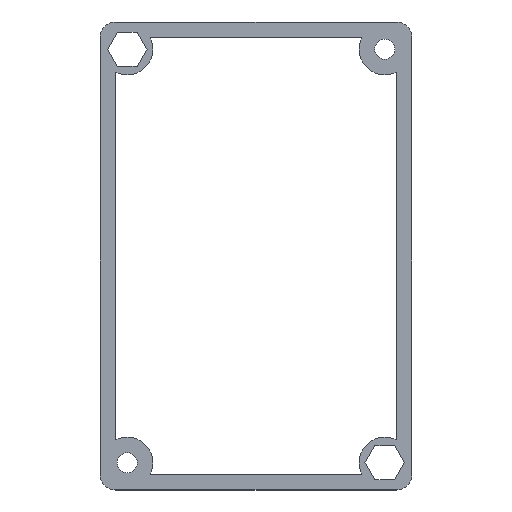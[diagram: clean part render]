
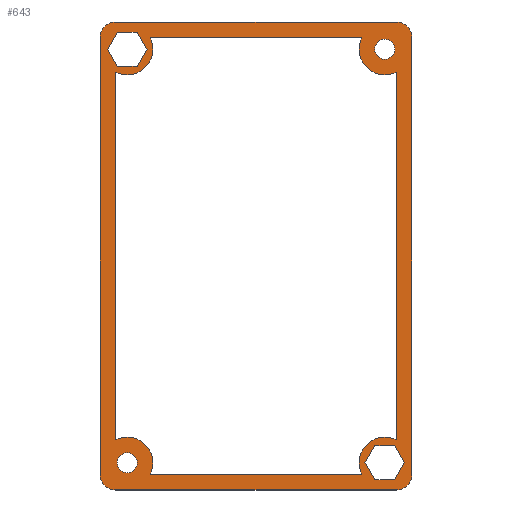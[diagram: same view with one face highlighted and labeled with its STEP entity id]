
A CAD part, top view. The second image highlights one B-rep face of the part: STEP entity #643.
In plain terms, the highlighted planar face has unit normal (0, 0, 1).
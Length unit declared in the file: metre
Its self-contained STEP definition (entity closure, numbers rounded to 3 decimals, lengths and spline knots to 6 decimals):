
#33=PLANE('',#708);
#36=LINE('',#894,#104);
#40=LINE('',#906,#108);
#44=LINE('',#918,#112);
#50=LINE('',#939,#118);
#54=LINE('',#951,#122);
#58=LINE('',#963,#126);
#62=LINE('',#975,#130);
#66=LINE('',#984,#134);
#69=LINE('',#990,#137);
#72=LINE('',#996,#140);
#75=LINE('',#1002,#143);
#78=LINE('',#1008,#146);
#82=LINE('',#1017,#150);
#85=LINE('',#1023,#153);
#88=LINE('',#1029,#156);
#91=LINE('',#1035,#159);
#94=LINE('',#1041,#162);
#96=LINE('',#1054,#164);
#98=LINE('',#1057,#166);
#100=LINE('',#1060,#168);
#104=VECTOR('',#721,1.);
#108=VECTOR('',#733,1.);
#112=VECTOR('',#745,1.);
#118=VECTOR('',#765,1.);
#122=VECTOR('',#777,1.);
#126=VECTOR('',#789,1.);
#130=VECTOR('',#801,1.);
#134=VECTOR('',#807,1.);
#137=VECTOR('',#812,1.);
#140=VECTOR('',#817,1.);
#143=VECTOR('',#822,1.);
#146=VECTOR('',#827,1.);
#150=VECTOR('',#833,1.);
#153=VECTOR('',#838,1.);
#156=VECTOR('',#843,1.);
#159=VECTOR('',#848,1.);
#162=VECTOR('',#853,1.);
#164=VECTOR('',#869,1.);
#166=VECTOR('',#873,1.);
#168=VECTOR('',#877,1.);
#316=ORIENTED_EDGE('',*,*,#406,.T.);
#317=ORIENTED_EDGE('',*,*,#430,.T.);
#318=ORIENTED_EDGE('',*,*,#419,.T.);
#319=ORIENTED_EDGE('',*,*,#416,.T.);
#320=ORIENTED_EDGE('',*,*,#413,.T.);
#321=ORIENTED_EDGE('',*,*,#410,.T.);
#322=ORIENTED_EDGE('',*,*,#390,.T.);
#323=ORIENTED_EDGE('',*,*,#428,.T.);
#324=ORIENTED_EDGE('',*,*,#403,.T.);
#325=ORIENTED_EDGE('',*,*,#400,.T.);
#326=ORIENTED_EDGE('',*,*,#397,.T.);
#327=ORIENTED_EDGE('',*,*,#394,.T.);
#328=ORIENTED_EDGE('',*,*,#427,.T.);
#329=ORIENTED_EDGE('',*,*,#425,.T.);
#330=ORIENTED_EDGE('',*,*,#368,.T.);
#331=ORIENTED_EDGE('',*,*,#422,.T.);
#332=ORIENTED_EDGE('',*,*,#387,.T.);
#333=ORIENTED_EDGE('',*,*,#384,.T.);
#334=ORIENTED_EDGE('',*,*,#381,.T.);
#335=ORIENTED_EDGE('',*,*,#378,.T.);
#336=ORIENTED_EDGE('',*,*,#375,.T.);
#337=ORIENTED_EDGE('',*,*,#372,.T.);
#338=ORIENTED_EDGE('',*,*,#346,.F.);
#339=ORIENTED_EDGE('',*,*,#432,.F.);
#340=ORIENTED_EDGE('',*,*,#365,.F.);
#341=ORIENTED_EDGE('',*,*,#362,.F.);
#342=ORIENTED_EDGE('',*,*,#359,.F.);
#343=ORIENTED_EDGE('',*,*,#356,.T.);
#344=ORIENTED_EDGE('',*,*,#353,.F.);
#345=ORIENTED_EDGE('',*,*,#350,.T.);
#346=EDGE_CURVE('',#434,#435,#494,.F.);
#350=EDGE_CURVE('',#438,#435,#36,.F.);
#353=EDGE_CURVE('',#438,#440,#496,.T.);
#356=EDGE_CURVE('',#442,#440,#40,.F.);
#359=EDGE_CURVE('',#442,#444,#498,.F.);
#362=EDGE_CURVE('',#444,#446,#44,.T.);
#365=EDGE_CURVE('',#446,#448,#500,.F.);
#368=EDGE_CURVE('',#450,#451,#502,.F.);
#372=EDGE_CURVE('',#454,#450,#50,.T.);
#375=EDGE_CURVE('',#456,#454,#504,.F.);
#378=EDGE_CURVE('',#458,#456,#54,.T.);
#381=EDGE_CURVE('',#460,#458,#506,.F.);
#384=EDGE_CURVE('',#462,#460,#58,.F.);
#387=EDGE_CURVE('',#464,#462,#508,.F.);
#390=EDGE_CURVE('',#466,#467,#62,.T.);
#394=EDGE_CURVE('',#470,#466,#66,.T.);
#397=EDGE_CURVE('',#472,#470,#69,.T.);
#400=EDGE_CURVE('',#474,#472,#72,.T.);
#403=EDGE_CURVE('',#476,#474,#75,.T.);
#406=EDGE_CURVE('',#478,#479,#78,.T.);
#410=EDGE_CURVE('',#482,#478,#82,.T.);
#413=EDGE_CURVE('',#484,#482,#85,.T.);
#416=EDGE_CURVE('',#486,#484,#88,.T.);
#419=EDGE_CURVE('',#488,#486,#91,.T.);
#422=EDGE_CURVE('',#451,#464,#94,.F.);
#425=EDGE_CURVE('',#491,#491,#511,.T.);
#427=EDGE_CURVE('',#493,#493,#513,.T.);
#428=EDGE_CURVE('',#467,#476,#96,.T.);
#430=EDGE_CURVE('',#479,#488,#98,.T.);
#432=EDGE_CURVE('',#448,#434,#100,.T.);
#434=VERTEX_POINT('',#886);
#435=VERTEX_POINT('',#887);
#438=VERTEX_POINT('',#895);
#440=VERTEX_POINT('',#901);
#442=VERTEX_POINT('',#907);
#444=VERTEX_POINT('',#913);
#446=VERTEX_POINT('',#919);
#448=VERTEX_POINT('',#925);
#450=VERTEX_POINT('',#931);
#451=VERTEX_POINT('',#932);
#454=VERTEX_POINT('',#940);
#456=VERTEX_POINT('',#946);
#458=VERTEX_POINT('',#952);
#460=VERTEX_POINT('',#958);
#462=VERTEX_POINT('',#964);
#464=VERTEX_POINT('',#970);
#466=VERTEX_POINT('',#976);
#467=VERTEX_POINT('',#977);
#470=VERTEX_POINT('',#985);
#472=VERTEX_POINT('',#991);
#474=VERTEX_POINT('',#997);
#476=VERTEX_POINT('',#1003);
#478=VERTEX_POINT('',#1009);
#479=VERTEX_POINT('',#1010);
#482=VERTEX_POINT('',#1018);
#484=VERTEX_POINT('',#1024);
#486=VERTEX_POINT('',#1030);
#488=VERTEX_POINT('',#1036);
#491=VERTEX_POINT('',#1047);
#493=VERTEX_POINT('',#1052);
#494=CIRCLE('',#658,0.008344);
#496=CIRCLE('',#662,0.008344);
#498=CIRCLE('',#666,0.008344);
#500=CIRCLE('',#670,0.008344);
#502=CIRCLE('',#673,0.00508);
#504=CIRCLE('',#677,0.00508);
#506=CIRCLE('',#681,0.00508);
#508=CIRCLE('',#685,0.00508);
#511=CIRCLE('',#700,0.003264);
#513=CIRCLE('',#703,0.003264);
#552=EDGE_LOOP('',(#316,#317,#318,#319,#320,#321));
#553=EDGE_LOOP('',(#322,#323,#324,#325,#326,#327));
#554=EDGE_LOOP('',(#328));
#555=EDGE_LOOP('',(#329));
#556=EDGE_LOOP('',(#330,#331,#332,#333,#334,#335,#336,#337));
#557=EDGE_LOOP('',(#338,#339,#340,#341,#342,#343,#344,#345));
#596=FACE_BOUND('',#552,.T.);
#597=FACE_BOUND('',#553,.T.);
#598=FACE_BOUND('',#554,.T.);
#599=FACE_BOUND('',#555,.T.);
#600=FACE_BOUND('',#556,.T.);
#601=FACE_BOUND('',#557,.T.);
#643=ADVANCED_FACE('',(#596,#597,#598,#599,#600,#601),#33,.F.);
#658=AXIS2_PLACEMENT_3D('',#885,#713,#714);
#662=AXIS2_PLACEMENT_3D('',#900,#726,#727);
#666=AXIS2_PLACEMENT_3D('',#912,#738,#739);
#670=AXIS2_PLACEMENT_3D('',#924,#750,#751);
#673=AXIS2_PLACEMENT_3D('',#930,#757,#758);
#677=AXIS2_PLACEMENT_3D('',#945,#770,#771);
#681=AXIS2_PLACEMENT_3D('',#957,#782,#783);
#685=AXIS2_PLACEMENT_3D('',#969,#794,#795);
#700=AXIS2_PLACEMENT_3D('',#1046,#859,#860);
#703=AXIS2_PLACEMENT_3D('',#1051,#865,#866);
#708=AXIS2_PLACEMENT_3D('',#1063,#881,#882);
#713=DIRECTION('',(0.,0.,1.));
#714=DIRECTION('',(1.,0.,0.));
#721=DIRECTION('',(0.,-1.,0.));
#726=DIRECTION('',(0.,0.,-1.));
#727=DIRECTION('',(-1.,0.,0.));
#733=DIRECTION('',(1.,0.,0.));
#738=DIRECTION('',(0.,0.,1.));
#739=DIRECTION('',(1.,0.,0.));
#745=DIRECTION('',(0.,1.,0.));
#750=DIRECTION('',(0.,0.,1.));
#751=DIRECTION('',(1.,0.,0.));
#757=DIRECTION('',(0.,0.,-1.));
#758=DIRECTION('',(-1.,0.,0.));
#765=DIRECTION('',(-1.,0.,0.));
#770=DIRECTION('',(0.,0.,-1.));
#771=DIRECTION('',(-1.,0.,0.));
#777=DIRECTION('',(0.,1.,0.));
#782=DIRECTION('',(0.,0.,-1.));
#783=DIRECTION('',(-1.,0.,0.));
#789=DIRECTION('',(-1.,0.,0.));
#794=DIRECTION('',(0.,0.,-1.));
#795=DIRECTION('',(-1.,0.,0.));
#801=DIRECTION('',(0.5,0.866,0.));
#807=DIRECTION('',(-0.5,0.866,0.));
#812=DIRECTION('',(-1.,0.,0.));
#817=DIRECTION('',(-0.5,-0.866,0.));
#822=DIRECTION('',(0.5,-0.866,0.));
#827=DIRECTION('',(0.5,0.866,0.));
#833=DIRECTION('',(-0.5,0.866,0.));
#838=DIRECTION('',(-1.,0.,0.));
#843=DIRECTION('',(-0.5,-0.866,0.));
#848=DIRECTION('',(0.5,-0.866,0.));
#853=DIRECTION('',(0.,1.,0.));
#859=DIRECTION('',(0.,0.,-1.));
#860=DIRECTION('',(-1.,0.,0.));
#865=DIRECTION('',(0.,0.,-1.));
#866=DIRECTION('',(-1.,0.,0.));
#869=DIRECTION('',(1.,0.,0.));
#873=DIRECTION('',(1.,0.,0.));
#877=DIRECTION('',(-1.,0.,0.));
#881=DIRECTION('',(0.,0.,-1.));
#882=DIRECTION('',(1.,0.,0.));
#885=CARTESIAN_POINT('',(-0.04191,0.06731,-0.03937));
#886=CARTESIAN_POINT('',(-0.034487,0.07112,-0.03937));
#887=CARTESIAN_POINT('',(-0.04572,0.059887,-0.03937));
#894=CARTESIAN_POINT('',(-0.04572,0.,-0.03937));
#895=CARTESIAN_POINT('',(-0.04572,-0.059887,-0.03937));
#900=CARTESIAN_POINT('',(-0.04191,-0.06731,-0.03937));
#901=CARTESIAN_POINT('',(-0.034487,-0.07112,-0.03937));
#906=CARTESIAN_POINT('',(0.,-0.07112,-0.03937));
#907=CARTESIAN_POINT('',(0.034487,-0.07112,-0.03937));
#912=CARTESIAN_POINT('',(0.04191,-0.06731,-0.03937));
#913=CARTESIAN_POINT('',(0.04572,-0.059887,-0.03937));
#918=CARTESIAN_POINT('',(0.04572,0.,-0.03937));
#919=CARTESIAN_POINT('',(0.04572,0.059887,-0.03937));
#924=CARTESIAN_POINT('',(0.04191,0.06731,-0.03937));
#925=CARTESIAN_POINT('',(0.034487,0.07112,-0.03937));
#930=CARTESIAN_POINT('',(-0.04572,0.07112,-0.03937));
#931=CARTESIAN_POINT('',(-0.04572,0.0762,-0.03937));
#932=CARTESIAN_POINT('',(-0.0508,0.07112,-0.03937));
#939=CARTESIAN_POINT('',(0.,0.0762,-0.03937));
#940=CARTESIAN_POINT('',(0.04572,0.0762,-0.03937));
#945=CARTESIAN_POINT('',(0.04572,0.07112,-0.03937));
#946=CARTESIAN_POINT('',(0.0508,0.07112,-0.03937));
#951=CARTESIAN_POINT('',(0.0508,0.,-0.03937));
#952=CARTESIAN_POINT('',(0.0508,-0.07112,-0.03937));
#957=CARTESIAN_POINT('',(0.04572,-0.07112,-0.03937));
#958=CARTESIAN_POINT('',(0.04572,-0.0762,-0.03937));
#963=CARTESIAN_POINT('',(0.,-0.0762,-0.03937));
#964=CARTESIAN_POINT('',(-0.04572,-0.0762,-0.03937));
#969=CARTESIAN_POINT('',(-0.04572,-0.07112,-0.03937));
#970=CARTESIAN_POINT('',(-0.0508,-0.07112,-0.03937));
#975=CARTESIAN_POINT('',(-0.046722,0.070088,-0.03937));
#976=CARTESIAN_POINT('',(-0.048326,0.06731,-0.03937));
#977=CARTESIAN_POINT('',(-0.045118,0.072866,-0.03937));
#984=CARTESIAN_POINT('',(-0.046722,0.064532,-0.03937));
#985=CARTESIAN_POINT('',(-0.045118,0.061754,-0.03937));
#990=CARTESIAN_POINT('',(-0.04191,0.061754,-0.03937));
#991=CARTESIAN_POINT('',(-0.038702,0.061754,-0.03937));
#996=CARTESIAN_POINT('',(-0.037098,0.064532,-0.03937));
#997=CARTESIAN_POINT('',(-0.035494,0.06731,-0.03937));
#1002=CARTESIAN_POINT('',(-0.037098,0.070088,-0.03937));
#1003=CARTESIAN_POINT('',(-0.038702,0.072866,-0.03937));
#1008=CARTESIAN_POINT('',(0.037098,-0.064532,-0.03937));
#1009=CARTESIAN_POINT('',(0.035494,-0.06731,-0.03937));
#1010=CARTESIAN_POINT('',(0.038702,-0.061754,-0.03937));
#1017=CARTESIAN_POINT('',(0.037098,-0.070088,-0.03937));
#1018=CARTESIAN_POINT('',(0.038702,-0.072866,-0.03937));
#1023=CARTESIAN_POINT('',(0.04191,-0.072866,-0.03937));
#1024=CARTESIAN_POINT('',(0.045118,-0.072866,-0.03937));
#1029=CARTESIAN_POINT('',(0.046722,-0.070088,-0.03937));
#1030=CARTESIAN_POINT('',(0.048326,-0.06731,-0.03937));
#1035=CARTESIAN_POINT('',(0.046722,-0.064532,-0.03937));
#1036=CARTESIAN_POINT('',(0.045118,-0.061754,-0.03937));
#1041=CARTESIAN_POINT('',(-0.0508,0.,-0.03937));
#1046=CARTESIAN_POINT('',(-0.04191,-0.06731,-0.03937));
#1047=CARTESIAN_POINT('',(-0.045174,-0.06731,-0.03937));
#1051=CARTESIAN_POINT('',(0.04191,0.06731,-0.03937));
#1052=CARTESIAN_POINT('',(0.038646,0.06731,-0.03937));
#1054=CARTESIAN_POINT('',(-0.04191,0.072866,-0.03937));
#1057=CARTESIAN_POINT('',(0.04191,-0.061754,-0.03937));
#1060=CARTESIAN_POINT('',(0.13335,0.07112,-0.03937));
#1063=CARTESIAN_POINT('',(0.,0.,-0.03937));
